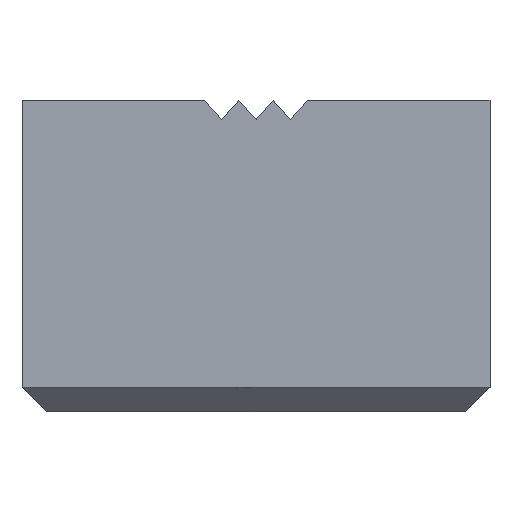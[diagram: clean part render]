
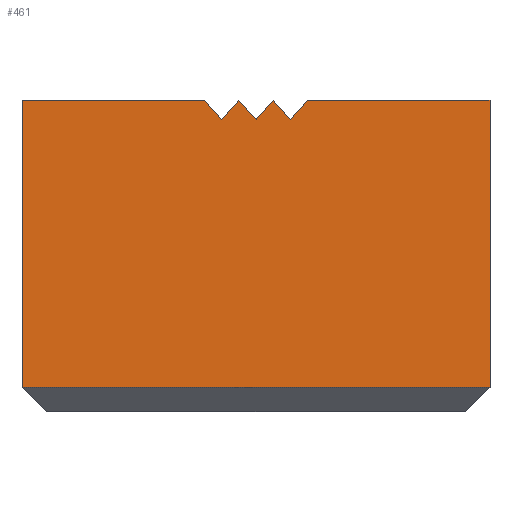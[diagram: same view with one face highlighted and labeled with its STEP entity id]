
A CAD part, left-side view. The second image highlights one B-rep face of the part: STEP entity #461.
In plain terms, the highlighted planar face has unit normal (-1, 0, 0).
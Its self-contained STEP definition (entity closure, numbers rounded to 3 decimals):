
#318=CARTESIAN_POINT('',(-4.765,-0.7,2.775));
#319=VERTEX_POINT('',#318);
#320=CARTESIAN_POINT('',(-4.765,-0.35,3.175));
#321=VERTEX_POINT('',#320);
#322=CARTESIAN_POINT('',(-4.765,-0.7,2.775));
#323=DIRECTION('',(0.0,0.659,0.753));
#324=VECTOR('',#323,0.532);
#325=LINE('',#322,#324);
#326=EDGE_CURVE('',#319,#321,#325,.T.);
#356=CARTESIAN_POINT('',(-4.765,-1.05,3.175));
#357=VERTEX_POINT('',#356);
#358=CARTESIAN_POINT('',(-4.765,-1.05,3.175));
#359=DIRECTION('',(0.0,0.659,-0.753));
#360=VECTOR('',#359,0.532);
#361=LINE('',#358,#360);
#362=EDGE_CURVE('',#357,#319,#361,.T.);
#382=CARTESIAN_POINT('',(-4.765,-4.765,-3.175));
#383=DIRECTION('',(-1.0,0.0,0.0));
#384=DIRECTION('',(0.0,0.0,1.0));
#385=AXIS2_PLACEMENT_3D('',#382,#383,#384);
#386=PLANE('',#385);
#387=ORIENTED_EDGE('',*,*,#362,.T.);
#388=ORIENTED_EDGE('',*,*,#326,.T.);
#389=CARTESIAN_POINT('',(-4.765,0.,2.775));
#390=VERTEX_POINT('',#389);
#391=CARTESIAN_POINT('',(-4.765,-0.35,3.175));
#392=DIRECTION('',(0.0,0.659,-0.753));
#393=VECTOR('',#392,0.532);
#394=LINE('',#391,#393);
#395=EDGE_CURVE('',#321,#390,#394,.T.);
#396=ORIENTED_EDGE('',*,*,#395,.T.);
#397=CARTESIAN_POINT('',(-4.765,0.35,3.175));
#398=VERTEX_POINT('',#397);
#399=CARTESIAN_POINT('',(-4.765,0.,2.775));
#400=DIRECTION('',(0.0,0.659,0.753));
#401=VECTOR('',#400,0.532);
#402=LINE('',#399,#401);
#403=EDGE_CURVE('',#390,#398,#402,.T.);
#404=ORIENTED_EDGE('',*,*,#403,.T.);
#405=CARTESIAN_POINT('',(-4.765,0.7,2.775));
#406=VERTEX_POINT('',#405);
#407=CARTESIAN_POINT('',(-4.765,0.35,3.175));
#408=DIRECTION('',(0.0,0.659,-0.753));
#409=VECTOR('',#408,0.532);
#410=LINE('',#407,#409);
#411=EDGE_CURVE('',#398,#406,#410,.T.);
#412=ORIENTED_EDGE('',*,*,#411,.T.);
#413=CARTESIAN_POINT('',(-4.765,1.05,3.175));
#414=VERTEX_POINT('',#413);
#415=CARTESIAN_POINT('',(-4.765,0.7,2.775));
#416=DIRECTION('',(0.0,0.659,0.753));
#417=VECTOR('',#416,0.532);
#418=LINE('',#415,#417);
#419=EDGE_CURVE('',#406,#414,#418,.T.);
#420=ORIENTED_EDGE('',*,*,#419,.T.);
#421=CARTESIAN_POINT('',(-4.765,4.765,3.175));
#422=VERTEX_POINT('',#421);
#423=CARTESIAN_POINT('',(-4.765,1.05,3.175));
#424=DIRECTION('',(0.0,1.0,0.0));
#425=VECTOR('',#424,3.715);
#426=LINE('',#423,#425);
#427=EDGE_CURVE('',#414,#422,#426,.T.);
#428=ORIENTED_EDGE('',*,*,#427,.T.);
#429=CARTESIAN_POINT('',(-4.765,4.765,-2.675));
#430=VERTEX_POINT('',#429);
#431=CARTESIAN_POINT('',(-4.765,4.765,-2.675));
#432=DIRECTION('',(0.0,0.0,1.0));
#433=VECTOR('',#432,5.85);
#434=LINE('',#431,#433);
#435=EDGE_CURVE('',#430,#422,#434,.T.);
#436=ORIENTED_EDGE('',*,*,#435,.F.);
#437=CARTESIAN_POINT('',(-4.765,-4.765,-2.675));
#438=VERTEX_POINT('',#437);
#439=CARTESIAN_POINT('',(-4.765,-4.765,-2.675));
#440=DIRECTION('',(0.0,1.0,0.0));
#441=VECTOR('',#440,9.53);
#442=LINE('',#439,#441);
#443=EDGE_CURVE('',#438,#430,#442,.T.);
#444=ORIENTED_EDGE('',*,*,#443,.F.);
#445=CARTESIAN_POINT('',(-4.765,-4.765,3.175));
#446=VERTEX_POINT('',#445);
#447=CARTESIAN_POINT('',(-4.765,-4.765,-2.675));
#448=DIRECTION('',(0.0,0.0,1.0));
#449=VECTOR('',#448,5.85);
#450=LINE('',#447,#449);
#451=EDGE_CURVE('',#438,#446,#450,.T.);
#452=ORIENTED_EDGE('',*,*,#451,.T.);
#453=CARTESIAN_POINT('',(-4.765,-4.765,3.175));
#454=DIRECTION('',(0.0,1.0,0.0));
#455=VECTOR('',#454,3.715);
#456=LINE('',#453,#455);
#457=EDGE_CURVE('',#446,#357,#456,.T.);
#458=ORIENTED_EDGE('',*,*,#457,.T.);
#459=EDGE_LOOP('',(#387,#388,#396,#404,#412,#420,#428,#436,#444,#452,#458));
#460=FACE_OUTER_BOUND('',#459,.T.);
#461=ADVANCED_FACE('',(#460),#386,.T.);
